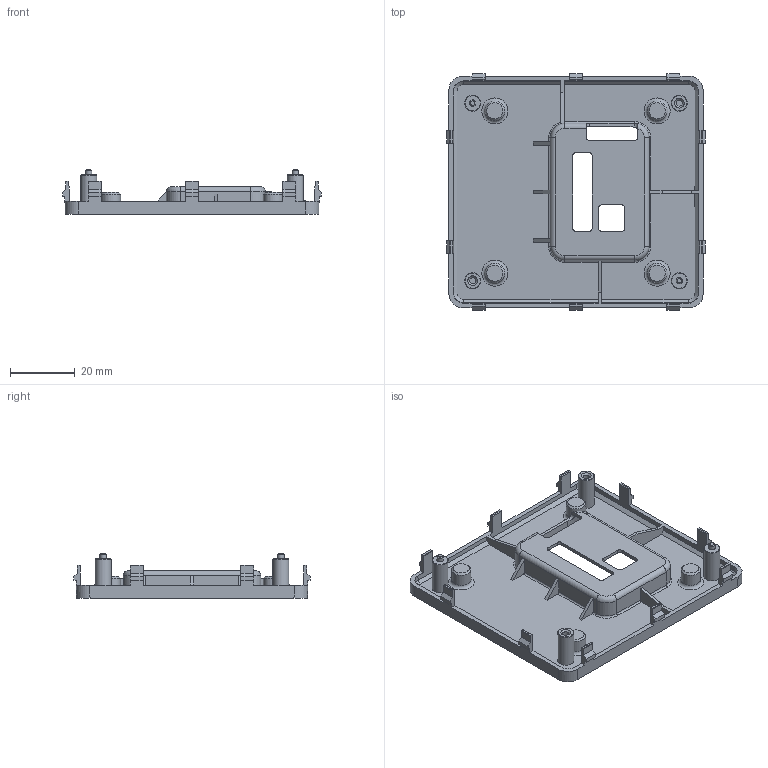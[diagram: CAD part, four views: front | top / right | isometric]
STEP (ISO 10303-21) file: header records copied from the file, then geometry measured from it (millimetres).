
FILE_DESCRIPTION(/* description */ (''),/* implementation_level */ '2;1');
FILE_NAME(/* name */ 'E:\YDRIVE\smd\Разные заготовки\Рустем ЖКХ\Корпус 26_05_23\V2.5 case 2023-04-13.stp',/* time_stamp */ '2023-09-05T18:06:16+03:00',/* author */ ('ADMIN'),/* organization */ (''),/* preprocessor_version */ 'ST-DEVELOPER v18.1',/* originating_system */ 'Autodesk Inventor 2021',/* authorisation */ '');
FILE_SCHEMA (('AUTOMOTIVE_DESIGN { 1 0 10303 214 3 1 1 }'));
Length unit declared in the file: millimetre
Products named in the file (1): V2.5 case 2023-04-13
Bounding box: 80.2 x 73.17 x 13.81 mm (x, y, z)
Volume: 11263.4 mm3; surface area: 16759 mm2
Topology: 1 solids, 1 shells, 420 faces, 1129 edges, 738 vertices
Faces by surface type: plane 274, cylinder 71, bspline 28, cone 26, torus 21
Full cylindrical faces by diameter (mm): 2 x4, 4.02 x4, 5 x4, 6.03 x4
Entity records: 13368 total; most frequent: CARTESIAN_POINT 2804, ORIENTED_EDGE 2258, DIRECTION 2062, EDGE_CURVE 1129, LINE 834, VECTOR 834, VERTEX_POINT 738, AXIS2_PLACEMENT_3D 614
